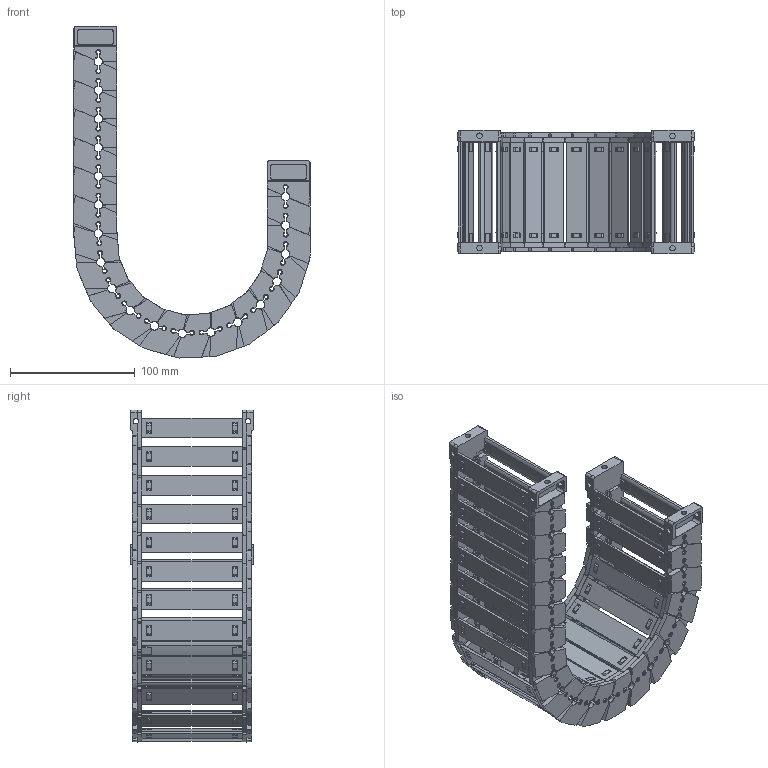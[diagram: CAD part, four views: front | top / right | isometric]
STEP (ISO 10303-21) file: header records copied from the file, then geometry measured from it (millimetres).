
FILE_DESCRIPTION((''),'2;1');
FILE_NAME('JY-28X80-R75_ASM','2026-03-26T08:50:03',('admin'),(''),'CREO PARAMETRIC BY PTC INC, 2021023','CREO PARAMETRIC BY PTC INC, 2021023','');
FILE_SCHEMA(('CONFIG_CONTROL_DESIGN'));
Length unit declared in the file: millimetre
Products named in the file (11): 28XL-L; 25-35XL-YP; 28XL-R; ASM0001_ASM; 28-LTT-A-L; 28-LTT-A-R; 28XL-LTT-A_ASM; 28-LTT-B-L; 28-LTT-B-R; 28XL-LTT-B_ASM; JY-28X80-R75_ASM
Assembly tree (32 placements, depth 3):
  JY-28X80-R75_ASM
    ASM0001_ASM  x18
      28XL-L
      25-35XL-YP
      28XL-R
    28XL-LTT-A_ASM
      28-LTT-A-L
      25-35XL-YP  x2
      28-LTT-A-R
    28XL-LTT-B_ASM
      28-LTT-B-L
      25-35XL-YP  x2
      28-LTT-B-R
Bounding box: 189.55 x 99 x 266.34 mm (x, y, z)
Volume: 366350.8 mm3; surface area: 265116.2 mm2
Topology: 80 solids, 80 shells, 6470 faces, 19228 edges, 12838 vertices
Faces by surface type: plane 4242, cone 1156, cylinder 934, bspline 138
Entity records: 29095 total; most frequent: CARTESIAN_POINT 9490, ORIENTED_EDGE 4352, DIRECTION 3655, EDGE_CURVE 2176, VERTEX_POINT 1454, VECTOR 1365, LINE 1365, AXIS2_PLACEMENT_3D 1145
